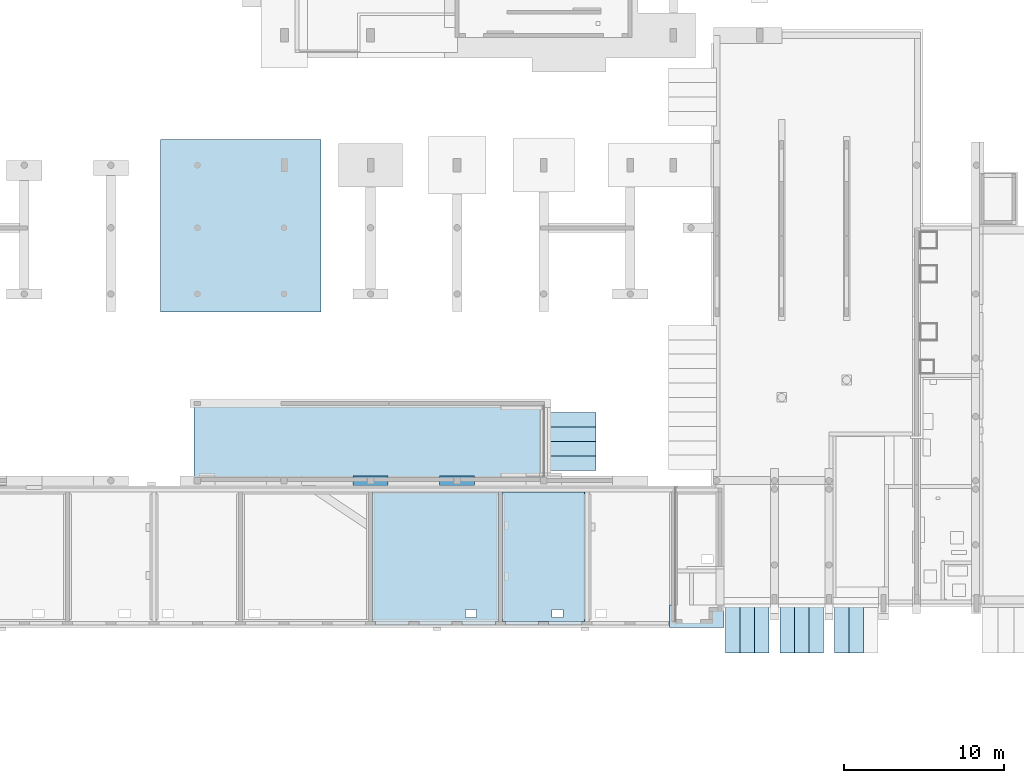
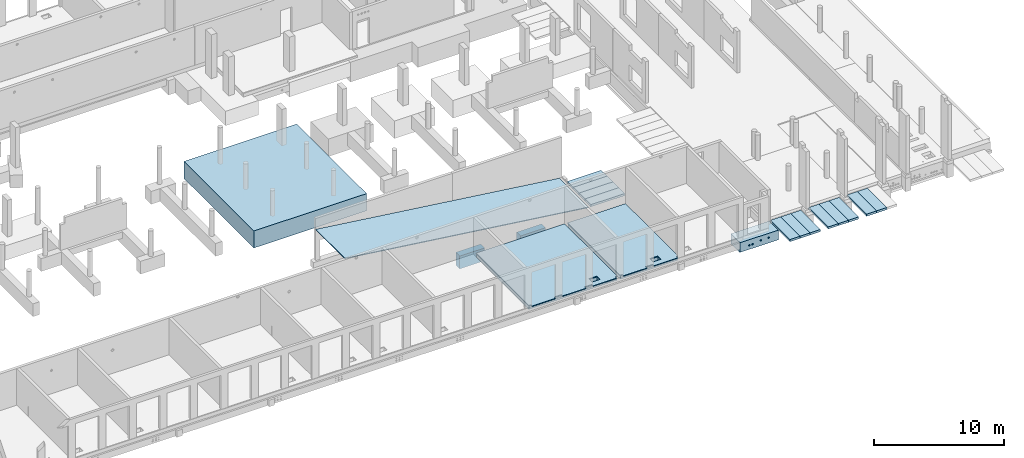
# One storey, part 28 of 60: 21 slabs, 34 openings.
"""IFC2X3 building model written with IfcOpenShell, lengths in millimetres."""

from ifc_helpers import new_model, entity, si_unit, converted_unit, derived_unit, direction, frame, frame_2d, origin, origin_2d_with_axis, place, context, subcontext, project, spatial, polyline, rectangle, circle, outline, extrude, boolean, clip, halfspace, material, layer, layer_set, layer_usage, element, save


model = new_model("IFC2X3")

# Units and contexts
model_context = context("Model", 3, precision=0.01, world=origin(), true_north=direction((6.12303176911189e-17, 1.0)))
body_context = subcontext(model_context, "Body", "Model", "MODEL_VIEW")
ifc_project = project(units=[si_unit("LENGTHUNIT", "METRE", prefix="MILLI"), si_unit("AREAUNIT", "SQUARE_METRE"), si_unit("VOLUMEUNIT", "CUBIC_METRE"), converted_unit("PLANEANGLEUNIT", "DEGREE", entity("IfcRatioMeasure", 0.0174532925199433), si_unit("PLANEANGLEUNIT", "RADIAN"), dimensions=[0, 0, 0, 0, 0, 0, 0]), si_unit("MASSUNIT", "GRAM", prefix="KILO"), derived_unit("MASSDENSITYUNIT", [(si_unit("MASSUNIT", "GRAM", prefix="KILO"), 1), (si_unit("LENGTHUNIT", "METRE"), -3)]), si_unit("TIMEUNIT", "SECOND"), si_unit("FREQUENCYUNIT", "HERTZ"), si_unit("THERMODYNAMICTEMPERATUREUNIT", "DEGREE_CELSIUS"), derived_unit("THERMALTRANSMITTANCEUNIT", [(si_unit("MASSUNIT", "GRAM", prefix="KILO"), 1), (si_unit("THERMODYNAMICTEMPERATUREUNIT", "KELVIN"), -1), (si_unit("TIMEUNIT", "SECOND"), -3)]), derived_unit("VOLUMETRICFLOWRATEUNIT", [(si_unit("LENGTHUNIT", "METRE"), 3), (si_unit("TIMEUNIT", "SECOND"), -1)]), si_unit("ELECTRICCURRENTUNIT", "AMPERE"), si_unit("ELECTRICVOLTAGEUNIT", "VOLT"), si_unit("POWERUNIT", "WATT"), si_unit("FORCEUNIT", "NEWTON", prefix="KILO"), si_unit("ILLUMINANCEUNIT", "LUX"), si_unit("LUMINOUSFLUXUNIT", "LUMEN"), si_unit("LUMINOUSINTENSITYUNIT", "CANDELA"), derived_unit("USERDEFINED", [(si_unit("MASSUNIT", "GRAM", prefix="KILO"), -1), (si_unit("LENGTHUNIT", "METRE"), -2), (si_unit("TIMEUNIT", "SECOND"), 3), (si_unit("LUMINOUSFLUXUNIT", "LUMEN"), 1)]), derived_unit("LINEARVELOCITYUNIT", [(si_unit("LENGTHUNIT", "METRE"), 1), (si_unit("TIMEUNIT", "SECOND"), -1)]), si_unit("PRESSUREUNIT", "PASCAL"), derived_unit("USERDEFINED", [(si_unit("LENGTHUNIT", "METRE"), -2), (si_unit("MASSUNIT", "GRAM", prefix="KILO"), 1), (si_unit("TIMEUNIT", "SECOND"), -2)])], contexts=[model_context])

# Site, building, storey
site_placement = place(None, origin())
site = spatial("IfcSite", under=ifc_project, at=site_placement, Name="Default", CompositionType="ELEMENT")
building_placement = place(site_placement, origin())
building = spatial("IfcBuilding", under=site, at=building_placement, Name="niet gebruiken", CompositionType="ELEMENT")
storey_placement = place(building_placement, origin())
storey = spatial("IfcBuildingStorey", under=building, at=storey_placement, Name="00 begane grond", CompositionType="ELEMENT", Elevation=0.0)

# Slab, openings
ifc_material_1 = material(Name="NLRS_f2_beton ihwg")
ifc_layer_1 = layer(ifc_material_1, 70.0)
ifc_layer_set_1 = layer_set([ifc_layer_1], Name="Floor:NLRS_23.21_FL_druklaag d=70_gen")
ifc_layer_usage_1 = layer_usage(ifc_layer_set_1, "AXIS3", "POSITIVE", 0.0)
slab_1_placement = place(storey_placement, frame((2800.0, 200.0, -160.0)))
slab_1 = element("IfcSlab", 1, at=slab_1_placement, inside=storey, material=ifc_layer_usage_1, Name="Floor:NLRS_23.21_FL_druklaag d=70_gen:14", ObjectType="Floor:NLRS_23.21_FL_druklaag d=70_gen", PredefinedType="FLOOR", context=body_context, shape_type="SweptSolid", body=[
    extrude(outline(polyline([(-28572.4999999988, -3948.0), (-28387.4999999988, -3948.0), (-28387.4999999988, 4148.0), (-36237.4999999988, 4148.0), (-36237.4999999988, -3948.0), (-36052.4999999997, -3948.0), (-36052.4999999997, -4148.0), (-33972.4999999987, -4148.0), (-33972.4999999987, -3948.0), (-33352.4999999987, -3948.0), (-33352.4999999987, -4148.0), (-31272.4999999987, -4148.0), (-31272.4999999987, -3948.0), (-30652.4999999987, -3948.0), (-30652.4999999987, -4148.0), (-28572.4999999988, -4148.0), (-28572.4999999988, -3948.0)])), frame((49937.5, 4148.0, 70.0), z_axis=(0.0, 0.0, -1.0), x_axis=(-1.0, 0.0, 0.0)), (0.0, 0.0, 1.0), 70.0),
])
placement_1 = place(storey_placement, frame((2800.0, 200.0, -160.0)))
placement_2 = place(placement_1, origin())
element("IfcOpeningElement", 2, at=placement_2, cuts=slab_1, ObjectType="Opening", context=body_context, shape_type="SweptSolid", body=[
    extrude(rectangle(XDim=699.999999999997, YDim=500.000000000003, at=origin_2d_with_axis()), frame((89870.0, 725.0, -380.0), z_axis=(0.0, 0.0, 1.0), x_axis=(-1.0, 0.0, 0.0)), (0.0, 0.0, 1.0), 450.0),
])
placement_3 = place(placement_1, origin())
element("IfcOpeningElement", 3, at=placement_3, cuts=slab_1, ObjectType="Opening", context=body_context, shape_type="SweptSolid", body=[
    extrude(rectangle(XDim=699.999999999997, YDim=500.000000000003, at=origin_2d_with_axis()), frame((92570.0, 725.0, -380.0), z_axis=(0.0, 0.0, 1.0), x_axis=(-1.0, 0.0, 0.0)), (0.0, 0.0, 1.0), 450.0),
])
placement_4 = place(placement_1, origin())
element("IfcOpeningElement", 4, at=placement_4, cuts=slab_1, ObjectType="Opening", context=body_context, shape_type="SweptSolid", body=[
    extrude(rectangle(XDim=699.999999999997, YDim=500.000000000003, at=origin_2d_with_axis()), frame((84470.0, 725.0, -380.0), z_axis=(0.0, 0.0, 1.0), x_axis=(-1.0, 0.0, 0.0)), (0.0, 0.0, 1.0), 450.0),
])
placement_5 = place(placement_1, origin())
element("IfcOpeningElement", 5, at=placement_5, cuts=slab_1, ObjectType="Opening", context=body_context, shape_type="SweptSolid", body=[
    extrude(rectangle(XDim=700.000000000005, YDim=500.000000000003, at=origin_2d_with_axis()), frame((70970.0, 725.0, -380.0), z_axis=(0.0, 0.0, 1.0), x_axis=(-1.0, 0.0, 0.0)), (0.0, 0.0, 1.0), 450.0),
])
placement_6 = place(placement_1, origin())
element("IfcOpeningElement", 6, at=placement_6, cuts=slab_1, ObjectType="Opening", context=body_context, shape_type="SweptSolid", body=[
    extrude(rectangle(XDim=700.000000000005, YDim=500.000000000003, at=origin_2d_with_axis()), frame((65570.0, 725.0, -380.0), z_axis=(0.0, 0.0, 1.0), x_axis=(-1.0, 0.0, 0.0)), (0.0, 0.0, 1.0), 450.0),
])
placement_7 = place(placement_1, origin())
element("IfcOpeningElement", 7, at=placement_7, cuts=slab_1, ObjectType="Opening", context=body_context, shape_type="SweptSolid", body=[
    extrude(rectangle(XDim=700.000000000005, YDim=500.000000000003, at=origin_2d_with_axis()), frame((62870.0, 725.0, -380.0), z_axis=(0.0, 0.0, 1.0), x_axis=(-1.0, 0.0, 0.0)), (0.0, 0.0, 1.0), 450.0),
])
placement_8 = place(placement_1, origin())
element("IfcOpeningElement", 8, at=placement_8, cuts=slab_1, ObjectType="Opening", context=body_context, shape_type="SweptSolid", body=[
    extrude(rectangle(XDim=700.000000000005, YDim=500.000000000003, at=origin_2d_with_axis()), frame((57470.0, 725.0, -380.0), z_axis=(0.0, 0.0, 1.0), x_axis=(-1.0, 0.0, 0.0)), (0.0, 0.0, 1.0), 450.0),
])
placement_9 = place(placement_1, origin())
element("IfcOpeningElement", 9, at=placement_9, cuts=slab_1, ObjectType="Opening", context=body_context, shape_type="SweptSolid", body=[
    extrude(rectangle(XDim=700.000000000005, YDim=500.000000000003, at=origin_2d_with_axis()), frame((43970.0, 725.0, -380.0), z_axis=(0.0, 0.0, 1.0), x_axis=(-1.0, 0.0, 0.0)), (0.0, 0.0, 1.0), 450.0),
])
placement_10 = place(placement_1, origin())
element("IfcOpeningElement", 10, at=placement_10, cuts=slab_1, ObjectType="Opening", context=body_context, shape_type="SweptSolid", body=[
    extrude(rectangle(XDim=700.000000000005, YDim=500.000000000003, at=origin_2d_with_axis()), frame((38570.0, 725.0, -380.0), z_axis=(0.0, 0.0, 1.0), x_axis=(-1.0, 0.0, 0.0)), (0.0, 0.0, 1.0), 450.0),
])
placement_11 = place(placement_1, origin())
element("IfcOpeningElement", 11, at=placement_11, cuts=slab_1, ObjectType="Opening", context=body_context, shape_type="SweptSolid", body=[
    extrude(rectangle(XDim=700.000000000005, YDim=500.000000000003, at=origin_2d_with_axis()), frame((35870.0, 725.0, -380.0), z_axis=(0.0, 0.0, 1.0), x_axis=(-1.0, 0.0, 0.0)), (0.0, 0.0, 1.0), 450.0),
])
placement_12 = place(placement_1, origin())
element("IfcOpeningElement", 12, at=placement_12, cuts=slab_1, ObjectType="Opening", context=body_context, shape_type="SweptSolid", body=[
    extrude(rectangle(XDim=700.000000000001, YDim=500.000000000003, at=origin_2d_with_axis()), frame((30470.0, 725.0, -380.0), z_axis=(0.0, 0.0, 1.0), x_axis=(-1.0, 0.0, 0.0)), (0.0, 0.0, 1.0), 450.0),
])
placement_13 = place(placement_1, origin())
element("IfcOpeningElement", 13, at=placement_13, cuts=slab_1, ObjectType="Opening", context=body_context, shape_type="SweptSolid", body=[
    extrude(rectangle(XDim=700.000000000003, YDim=500.000000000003, at=origin_2d_with_axis()), frame((16970.0, 725.0, -380.0), z_axis=(0.0, 0.0, 1.0), x_axis=(-1.0, 0.0, 0.0)), (0.0, 0.0, 1.0), 450.0),
])
placement_14 = place(placement_1, origin())
element("IfcOpeningElement", 14, at=placement_14, cuts=slab_1, ObjectType="Opening", context=body_context, shape_type="SweptSolid", body=[
    extrude(rectangle(XDim=700.000000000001, YDim=500.000000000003, at=origin_2d_with_axis()), frame((11570.0, 725.0, -380.0), z_axis=(0.0, 0.0, 1.0), x_axis=(-1.0, 0.0, 0.0)), (0.0, 0.0, 1.0), 450.0),
])
placement_15 = place(placement_1, origin())
element("IfcOpeningElement", 15, at=placement_15, cuts=slab_1, ObjectType="Opening", context=body_context, shape_type="SweptSolid", body=[
    extrude(rectangle(XDim=700.000000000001, YDim=500.000000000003, at=origin_2d_with_axis()), frame((8870.0, 725.0, -380.0), z_axis=(0.0, 0.0, 1.0), x_axis=(-1.0, 0.0, 0.0)), (0.0, 0.0, 1.0), 450.0),
])
placement_16 = place(placement_1, origin())
element("IfcOpeningElement", 16, at=placement_16, cuts=slab_1, ObjectType="Opening", context=body_context, shape_type="SweptSolid", body=[
    extrude(rectangle(XDim=700.000000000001, YDim=500.000000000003, at=origin_2d_with_axis()), frame((3470.0, 725.0, -380.0), z_axis=(0.0, 0.0, 1.0), x_axis=(-1.0, 0.0, 0.0)), (0.0, 0.0, 1.0), 450.0),
])
placement_17 = place(placement_1, origin())
element("IfcOpeningElement", 17, at=placement_17, cuts=slab_1, ObjectType="Opening", context=body_context, shape_type="SweptSolid", body=[
    extrude(rectangle(XDim=699.999999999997, YDim=500.000000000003, at=origin_2d_with_axis()), frame((99205.001708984, 4120.00003051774, -380.0), z_axis=(0.0, 0.0, 1.0), x_axis=(-1.0, 0.0, 0.0)), (0.0, 0.0, 1.0), 450.0),
])

slab_2_placement = place(storey_placement, frame((2800.0, 200.0, -160.0)))
slab_2 = element("IfcSlab", 18, at=slab_2_placement, inside=storey, material=ifc_layer_usage_1, Name="Floor:NLRS_23.21_FL_druklaag d=70_gen:15", ObjectType="Floor:NLRS_23.21_FL_druklaag d=70_gen", PredefinedType="FLOOR", context=body_context, shape_type="SweptSolid", body=[
    extrude(outline(polyline([(-36672.4999999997, -3948.0), (-36487.4999999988, -3948.0), (-36487.4999999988, 4148.0), (-41637.4999999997, 4148.0), (-41637.4999999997, -3948.0), (-41452.4999999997, -3948.0), (-41452.4999999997, -4148.0), (-39372.4999999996, -4148.0), (-39372.4999999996, -3948.0), (-38752.4999999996, -3948.0), (-38752.4999999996, -4148.0), (-36672.4999999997, -4148.0), (-36672.4999999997, -3948.0)])), frame((49937.5, 4148.0, 70.0), z_axis=(0.0, 0.0, -1.0), x_axis=(-1.0, 0.0, 0.0)), (0.0, 0.0, 1.0), 70.0),
])
element("IfcOpeningElement", 19, at=placement_2, cuts=slab_2, ObjectType="Opening", context=body_context, shape_type="SweptSolid", body=[
    extrude(rectangle(XDim=699.999999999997, YDim=500.000000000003, at=origin_2d_with_axis()), frame((89870.0, 725.0, -380.0), z_axis=(0.0, 0.0, 1.0), x_axis=(-1.0, 0.0, 0.0)), (0.0, 0.0, 1.0), 450.0),
])
element("IfcOpeningElement", 20, at=placement_3, cuts=slab_2, ObjectType="Opening", context=body_context, shape_type="SweptSolid", body=[
    extrude(rectangle(XDim=699.999999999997, YDim=500.000000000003, at=origin_2d_with_axis()), frame((92570.0, 725.0, -380.0), z_axis=(0.0, 0.0, 1.0), x_axis=(-1.0, 0.0, 0.0)), (0.0, 0.0, 1.0), 450.0),
])
element("IfcOpeningElement", 21, at=placement_4, cuts=slab_2, ObjectType="Opening", context=body_context, shape_type="SweptSolid", body=[
    extrude(rectangle(XDim=699.999999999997, YDim=500.000000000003, at=origin_2d_with_axis()), frame((84470.0, 725.0, -380.0), z_axis=(0.0, 0.0, 1.0), x_axis=(-1.0, 0.0, 0.0)), (0.0, 0.0, 1.0), 450.0),
])
element("IfcOpeningElement", 22, at=placement_5, cuts=slab_2, ObjectType="Opening", context=body_context, shape_type="SweptSolid", body=[
    extrude(rectangle(XDim=700.000000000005, YDim=500.000000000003, at=origin_2d_with_axis()), frame((70970.0, 725.0, -380.0), z_axis=(0.0, 0.0, 1.0), x_axis=(-1.0, 0.0, 0.0)), (0.0, 0.0, 1.0), 450.0),
])
element("IfcOpeningElement", 23, at=placement_6, cuts=slab_2, ObjectType="Opening", context=body_context, shape_type="SweptSolid", body=[
    extrude(rectangle(XDim=700.000000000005, YDim=500.000000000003, at=origin_2d_with_axis()), frame((65570.0, 725.0, -380.0), z_axis=(0.0, 0.0, 1.0), x_axis=(-1.0, 0.0, 0.0)), (0.0, 0.0, 1.0), 450.0),
])
element("IfcOpeningElement", 24, at=placement_7, cuts=slab_2, ObjectType="Opening", context=body_context, shape_type="SweptSolid", body=[
    extrude(rectangle(XDim=700.000000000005, YDim=500.000000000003, at=origin_2d_with_axis()), frame((62870.0, 725.0, -380.0), z_axis=(0.0, 0.0, 1.0), x_axis=(-1.0, 0.0, 0.0)), (0.0, 0.0, 1.0), 450.0),
])
element("IfcOpeningElement", 25, at=placement_8, cuts=slab_2, ObjectType="Opening", context=body_context, shape_type="SweptSolid", body=[
    extrude(rectangle(XDim=700.000000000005, YDim=500.000000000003, at=origin_2d_with_axis()), frame((57470.0, 725.0, -380.0), z_axis=(0.0, 0.0, 1.0), x_axis=(-1.0, 0.0, 0.0)), (0.0, 0.0, 1.0), 450.0),
])
element("IfcOpeningElement", 26, at=placement_9, cuts=slab_2, ObjectType="Opening", context=body_context, shape_type="SweptSolid", body=[
    extrude(rectangle(XDim=700.000000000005, YDim=500.000000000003, at=origin_2d_with_axis()), frame((43970.0, 725.0, -380.0), z_axis=(0.0, 0.0, 1.0), x_axis=(-1.0, 0.0, 0.0)), (0.0, 0.0, 1.0), 450.0),
])
element("IfcOpeningElement", 27, at=placement_10, cuts=slab_2, ObjectType="Opening", context=body_context, shape_type="SweptSolid", body=[
    extrude(rectangle(XDim=700.000000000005, YDim=500.000000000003, at=origin_2d_with_axis()), frame((38570.0, 725.0, -380.0), z_axis=(0.0, 0.0, 1.0), x_axis=(-1.0, 0.0, 0.0)), (0.0, 0.0, 1.0), 450.0),
])
element("IfcOpeningElement", 28, at=placement_11, cuts=slab_2, ObjectType="Opening", context=body_context, shape_type="SweptSolid", body=[
    extrude(rectangle(XDim=700.000000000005, YDim=500.000000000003, at=origin_2d_with_axis()), frame((35870.0, 725.0, -380.0), z_axis=(0.0, 0.0, 1.0), x_axis=(-1.0, 0.0, 0.0)), (0.0, 0.0, 1.0), 450.0),
])
element("IfcOpeningElement", 29, at=placement_12, cuts=slab_2, ObjectType="Opening", context=body_context, shape_type="SweptSolid", body=[
    extrude(rectangle(XDim=700.000000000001, YDim=500.000000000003, at=origin_2d_with_axis()), frame((30470.0, 725.0, -380.0), z_axis=(0.0, 0.0, 1.0), x_axis=(-1.0, 0.0, 0.0)), (0.0, 0.0, 1.0), 450.0),
])
element("IfcOpeningElement", 30, at=placement_13, cuts=slab_2, ObjectType="Opening", context=body_context, shape_type="SweptSolid", body=[
    extrude(rectangle(XDim=700.000000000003, YDim=500.000000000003, at=origin_2d_with_axis()), frame((16970.0, 725.0, -380.0), z_axis=(0.0, 0.0, 1.0), x_axis=(-1.0, 0.0, 0.0)), (0.0, 0.0, 1.0), 450.0),
])
element("IfcOpeningElement", 31, at=placement_14, cuts=slab_2, ObjectType="Opening", context=body_context, shape_type="SweptSolid", body=[
    extrude(rectangle(XDim=700.000000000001, YDim=500.000000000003, at=origin_2d_with_axis()), frame((11570.0, 725.0, -380.0), z_axis=(0.0, 0.0, 1.0), x_axis=(-1.0, 0.0, 0.0)), (0.0, 0.0, 1.0), 450.0),
])
element("IfcOpeningElement", 32, at=placement_15, cuts=slab_2, ObjectType="Opening", context=body_context, shape_type="SweptSolid", body=[
    extrude(rectangle(XDim=700.000000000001, YDim=500.000000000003, at=origin_2d_with_axis()), frame((8870.0, 725.0, -380.0), z_axis=(0.0, 0.0, 1.0), x_axis=(-1.0, 0.0, 0.0)), (0.0, 0.0, 1.0), 450.0),
])
element("IfcOpeningElement", 33, at=placement_16, cuts=slab_2, ObjectType="Opening", context=body_context, shape_type="SweptSolid", body=[
    extrude(rectangle(XDim=700.000000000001, YDim=500.000000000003, at=origin_2d_with_axis()), frame((3470.0, 725.0, -380.0), z_axis=(0.0, 0.0, 1.0), x_axis=(-1.0, 0.0, 0.0)), (0.0, 0.0, 1.0), 450.0),
])
element("IfcOpeningElement", 34, at=placement_17, cuts=slab_2, ObjectType="Opening", context=body_context, shape_type="SweptSolid", body=[
    extrude(rectangle(XDim=699.999999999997, YDim=500.000000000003, at=origin_2d_with_axis()), frame((99205.001708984, 4120.00003051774, -380.0), z_axis=(0.0, 0.0, 1.0), x_axis=(-1.0, 0.0, 0.0)), (0.0, 0.0, 1.0), 450.0),
])

# Slab, opening
ifc_material_2 = material(Name="NLRS_f2_beton prefab")
ifc_layer_2 = layer(ifc_material_2, 200.0)
ifc_material_3 = material(Name="NLRS_n7_isolatie EPS")
ifc_layer_3 = layer(ifc_material_3, 132.0)
ifc_layer_set_2 = layer_set([ifc_layer_2, ifc_layer_3], Name="Floor:NLRS_23.21_FL_geisoleerde kanaalplaat d=200 rc 3.5 iso132_gen")
ifc_layer_usage_2 = layer_usage(ifc_layer_set_2, "AXIS3", "POSITIVE", 0.0)
slab_3_placement = place(storey_placement, frame((89245.0, 420.0, -492.0)))
slab_3 = element("IfcSlab", 35, at=slab_3_placement, inside=storey, material=ifc_layer_usage_2, Name="Floor:NLRS_23.21_FL_geisoleerde kanaalplaat d=200 rc 3.5 iso132_gen", ObjectType="Floor:NLRS_23.21_FL_geisoleerde kanaalplaat d=200 rc 3.5 iso132_gen", PredefinedType="FLOOR", context=body_context, shape_type="SweptSolid", body=[
    extrude(rectangle(XDim=8055.99999999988, YDim=5109.99999999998, at=frame_2d((0.0, 0.0), x_axis=(0.0, -1.0))), frame((2555.0, 4028.0, 332.0), z_axis=(0.0, 0.0, -1.0), x_axis=(-1.0, 0.0, 0.0)), (0.0, 0.0, 1.0), 332.0),
])
opening_33_placement = place(slab_3_placement, origin())
element("IfcOpeningElement", 36, at=opening_33_placement, cuts=slab_3, ObjectType="Opening", context=body_context, shape_type="SweptSolid", body=[
    extrude(rectangle(XDim=699.999999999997, YDim=500.000000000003, at=origin_2d_with_axis()), frame((3425.0, 505.0, -48.0), z_axis=(0.0, 0.0, 1.0), x_axis=(-1.0, 0.0, 0.0)), (0.0, 0.0, 1.0), 450.0),
])

ifc_layer_usage_3 = layer_usage(ifc_layer_set_2, "AXIS3", "POSITIVE", 0.0)
slab_4_placement = place(storey_placement, frame((81145.0, 420.0, -492.0)))
slab_4 = element("IfcSlab", 37, at=slab_4_placement, inside=storey, material=ifc_layer_usage_3, Name="Floor:NLRS_23.21_FL_geisoleerde kanaalplaat d=200 rc 3.5 iso132_gen", ObjectType="Floor:NLRS_23.21_FL_geisoleerde kanaalplaat d=200 rc 3.5 iso132_gen", PredefinedType="FLOOR", context=body_context, shape_type="SweptSolid", body=[
    extrude(rectangle(XDim=8055.9999999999, YDim=7809.99999999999, at=frame_2d((0.0, 0.0), x_axis=(0.0, -1.0))), frame((3905.0, 4028.0, 332.0), z_axis=(0.0, 0.0, -1.0), x_axis=(-1.0, 0.0, 0.0)), (0.0, 0.0, 1.0), 332.0),
])
opening_34_placement = place(slab_4_placement, origin())
element("IfcOpeningElement", 38, at=opening_34_placement, cuts=slab_4, ObjectType="Opening", context=body_context, shape_type="SweptSolid", body=[
    extrude(rectangle(XDim=699.999999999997, YDim=500.000000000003, at=origin_2d_with_axis()), frame((6125.0, 505.0, -48.0), z_axis=(0.0, 0.0, 1.0), x_axis=(-1.0, 0.0, 0.0)), (0.0, 0.0, 1.0), 450.0),
])

# Slabs
ifc_layer_4 = layer(ifc_material_1, 70.0)
ifc_layer_set_3 = layer_set([ifc_layer_4], Name="Floor:NLRS_23.21_FL_druklaag - opgeruwd d=70_gen")
ifc_layer_usage_4 = layer_usage(ifc_layer_set_3, "AXIS3", "POSITIVE", 0.0)
slab_5_placement = place(storey_placement, origin())
element("IfcSlab", 39, at=slab_5_placement, inside=storey, material=ifc_layer_usage_4, Name="Floor:NLRS_23.21_FL_druklaag - opgeruwd d=70_gen", ObjectType="Floor:NLRS_23.21_FL_druklaag - opgeruwd d=70_gen", PredefinedType="FLOOR", context=body_context, shape_type="Clipping", body=[
    clip(clip(extrude(rectangle(XDim=21776.8891258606, YDim=4480.0, at=frame_2d((6.82121026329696e-13, 0.0), x_axis=(0.0, 1.0))), frame((80800.0, 11636.0, 1385.0), z_axis=(-0.127199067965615, 0.0, -0.991877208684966), x_axis=(0.0, 1.0, 0.0)), (0.0, 0.127199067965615, 0.991877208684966), 71.151198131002), halfspace(frame((91600.0, 11726.2449729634, -70.5732517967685), z_axis=(-0.127199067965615, 0.0, -0.991877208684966), x_axis=(-0.991877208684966, 0.0, 0.127199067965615)), False)), halfspace(frame((91600.0, 11726.2449729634, 0.0), z_axis=(0.127199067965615, 0.0, 0.991877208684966), x_axis=(0.991877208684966, 0.0, -0.127199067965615)), False)),
])
ifc_layer_5 = layer(ifc_material_1, 1600.0)
ifc_layer_set_4 = layer_set([ifc_layer_5], Name="Floor:NLRS_13.22_FL_beton ihwg d=1600_gen")
ifc_layer_usage_5 = layer_usage(ifc_layer_set_4, "AXIS3", "POSITIVE", 0.0)
slab_6_placement = place(storey_placement, origin())
element("IfcSlab", 40, at=slab_6_placement, inside=storey, material=ifc_layer_usage_5, Name="Floor:NLRS_13.22_FL_beton ihwg d=1600_gen", ObjectType="Floor:NLRS_13.22_FL_beton ihwg d=1600_gen", PredefinedType="BASESLAB", context=body_context, shape_type="SweptSolid", body=[
    extrude(rectangle(XDim=10750.0, YDim=10000.0, at=origin_2d_with_axis()), frame((72900.0, 25106.0, -200.0), z_axis=(0.0, 0.0, -1.0), x_axis=(0.0, 1.0, 0.0)), (0.0, 0.0, 1.0), 1600.0),
])
slab_7_placement = place(storey_placement, origin())
element("IfcSlab", 41, at=slab_7_placement, inside=storey, material=ifc_material_1, Name="NLRS_16.13_SFO_LB_fundatiepoer_gen:600x2200x1200", ObjectType="NLRS_16.13_SFO_LB_fundatiepoer_gen:600x2200x1200", PredefinedType="BASESLAB", context=body_context, shape_type="SweptSolid", body=[
    extrude(rectangle(XDim=2200.0, YDim=600.0, at=frame_2d((8.64019966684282e-12, 0.0), x_axis=(1.0, 0.0))), frame((81000.0, 9196.0, -1400.0), z_axis=(0.0, 0.0, 1.0), x_axis=(-1.0, 0.0, 0.0)), (0.0, 0.0, 1.0), 1200.0),
])
slab_8_placement = place(storey_placement, origin())
element("IfcSlab", 42, at=slab_8_placement, inside=storey, material=ifc_material_1, Name="NLRS_16.13_SFO_LB_fundatiepoer_gen:600x2200x1200", ObjectType="NLRS_16.13_SFO_LB_fundatiepoer_gen:600x2200x1200", PredefinedType="BASESLAB", context=body_context, shape_type="SweptSolid", body=[
    extrude(rectangle(XDim=2200.0, YDim=600.0, at=frame_2d((8.64019966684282e-12, 0.0), x_axis=(1.0, 0.0))), frame((86400.0, 9196.0, -1400.0), z_axis=(0.0, 0.0, 1.0), x_axis=(-1.0, 0.0, 0.0)), (0.0, 0.0, 1.0), 1200.0),
])
ifc_layer_6 = layer(ifc_material_2, 200.0)
ifc_layer_set_5 = layer_set([ifc_layer_6], Name="Floor:NLRS_13.22_FL_beton prefab d=200_gen")
ifc_layer_usage_6 = layer_usage(ifc_layer_set_5, "AXIS3", "POSITIVE", 0.0)
slab_9_placement = place(storey_placement, origin())
element("IfcSlab", 43, at=slab_9_placement, inside=storey, material=ifc_layer_usage_6, Name="Floor:NLRS_13.22_FL_beton prefab d=200_gen", ObjectType="Floor:NLRS_13.22_FL_beton prefab d=200_gen", PredefinedType="FLOOR", context=body_context, shape_type="SweptSolid", body=[
    extrude(rectangle(XDim=3000.0, YDim=900.000000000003, at=frame_2d((-2.27373675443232e-13, 0.0), x_axis=(1.0, 0.0))), frame((111300.000370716, -50.0, -450.0), z_axis=(0.0, 0.0, -1.0), x_axis=(0.0, 1.0, 0.0)), (0.0, 0.0, 1.0), 200.0),
])
ifc_layer_usage_7 = layer_usage(ifc_layer_set_5, "AXIS3", "POSITIVE", 0.0)
slab_10_placement = place(storey_placement, origin())
element("IfcSlab", 44, at=slab_10_placement, inside=storey, material=ifc_layer_usage_7, Name="Floor:NLRS_13.22_FL_beton prefab d=200_gen", ObjectType="Floor:NLRS_13.22_FL_beton prefab d=200_gen", PredefinedType="FLOOR", context=body_context, shape_type="SweptSolid", body=[
    extrude(rectangle(XDim=3000.0, YDim=900.000000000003, at=frame_2d((-2.27373675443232e-13, 0.0), x_axis=(1.0, 0.0))), frame((110400.000370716, -50.0, -450.0), z_axis=(0.0, 0.0, -1.0), x_axis=(0.0, 1.0, 0.0)), (0.0, 0.0, 1.0), 200.0),
])
ifc_layer_usage_8 = layer_usage(ifc_layer_set_5, "AXIS3", "POSITIVE", 0.0)
slab_11_placement = place(storey_placement, origin())
element("IfcSlab", 45, at=slab_11_placement, inside=storey, material=ifc_layer_usage_8, Name="Floor:NLRS_13.22_FL_beton prefab d=200_gen", ObjectType="Floor:NLRS_13.22_FL_beton prefab d=200_gen", PredefinedType="FLOOR", context=body_context, shape_type="SweptSolid", body=[
    extrude(rectangle(XDim=3000.0, YDim=900.000000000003, at=frame_2d((-2.27373675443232e-13, 0.0), x_axis=(1.0, 0.0))), frame((108800.000370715, -50.0, -450.0), z_axis=(0.0, 0.0, -1.0), x_axis=(0.0, 1.0, 0.0)), (0.0, 0.0, 1.0), 200.0),
])
ifc_layer_usage_9 = layer_usage(ifc_layer_set_5, "AXIS3", "POSITIVE", 0.0)
slab_12_placement = place(storey_placement, origin())
element("IfcSlab", 46, at=slab_12_placement, inside=storey, material=ifc_layer_usage_9, Name="Floor:NLRS_13.22_FL_beton prefab d=200_gen", ObjectType="Floor:NLRS_13.22_FL_beton prefab d=200_gen", PredefinedType="FLOOR", context=body_context, shape_type="SweptSolid", body=[
    extrude(rectangle(XDim=3000.0, YDim=900.000000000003, at=origin_2d_with_axis()), frame((107900.000370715, -50.0, -450.0), z_axis=(0.0, 0.0, -1.0), x_axis=(0.0, 1.0, 0.0)), (0.0, 0.0, 1.0), 200.0),
])
ifc_layer_usage_10 = layer_usage(ifc_layer_set_5, "AXIS3", "POSITIVE", 0.0)
slab_13_placement = place(storey_placement, origin())
element("IfcSlab", 47, at=slab_13_placement, inside=storey, material=ifc_layer_usage_10, Name="Floor:NLRS_13.22_FL_beton prefab d=200_gen", ObjectType="Floor:NLRS_13.22_FL_beton prefab d=200_gen", PredefinedType="FLOOR", context=body_context, shape_type="SweptSolid", body=[
    extrude(rectangle(XDim=3000.0, YDim=900.000000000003, at=origin_2d_with_axis()), frame((107000.000370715, -50.0, -450.0), z_axis=(0.0, 0.0, -1.0), x_axis=(0.0, 1.0, 0.0)), (0.0, 0.0, 1.0), 200.0),
])
ifc_layer_usage_11 = layer_usage(ifc_layer_set_5, "AXIS3", "POSITIVE", 0.0)
slab_14_placement = place(storey_placement, origin())
element("IfcSlab", 48, at=slab_14_placement, inside=storey, material=ifc_layer_usage_11, Name="Floor:NLRS_13.22_FL_beton prefab d=200_gen", ObjectType="Floor:NLRS_13.22_FL_beton prefab d=200_gen", PredefinedType="FLOOR", context=body_context, shape_type="SweptSolid", body=[
    extrude(rectangle(XDim=3000.0, YDim=900.000000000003, at=origin_2d_with_axis()), frame((105400.000370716, -50.0, -450.0), z_axis=(0.0, 0.0, -1.0), x_axis=(0.0, 1.0, 0.0)), (0.0, 0.0, 1.0), 200.0),
])
ifc_layer_usage_12 = layer_usage(ifc_layer_set_5, "AXIS3", "POSITIVE", 0.0)
slab_15_placement = place(storey_placement, origin())
element("IfcSlab", 49, at=slab_15_placement, inside=storey, material=ifc_layer_usage_12, Name="Floor:NLRS_13.22_FL_beton prefab d=200_gen", ObjectType="Floor:NLRS_13.22_FL_beton prefab d=200_gen", PredefinedType="FLOOR", context=body_context, shape_type="SweptSolid", body=[
    extrude(rectangle(XDim=3000.0, YDim=900.000000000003, at=frame_2d((-2.27373675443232e-13, 0.0), x_axis=(1.0, 0.0))), frame((104500.000370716, -50.0, -450.0), z_axis=(0.0, 0.0, -1.0), x_axis=(0.0, 1.0, 0.0)), (0.0, 0.0, 1.0), 200.0),
])
ifc_layer_usage_13 = layer_usage(ifc_layer_set_5, "AXIS3", "POSITIVE", 0.0)
slab_16_placement = place(storey_placement, origin())
element("IfcSlab", 50, at=slab_16_placement, inside=storey, material=ifc_layer_usage_13, Name="Floor:NLRS_13.22_FL_beton prefab d=200_gen", ObjectType="Floor:NLRS_13.22_FL_beton prefab d=200_gen", PredefinedType="FLOOR", context=body_context, shape_type="SweptSolid", body=[
    extrude(rectangle(XDim=3000.0, YDim=900.000000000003, at=frame_2d((-2.27373675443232e-13, 0.0), x_axis=(1.0, 0.0))), frame((103600.000370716, -50.0, -450.0), z_axis=(0.0, 0.0, -1.0), x_axis=(0.0, 1.0, 0.0)), (0.0, 0.0, 1.0), 200.0),
])
ifc_layer_usage_14 = layer_usage(ifc_layer_set_5, "AXIS3", "POSITIVE", 0.0)
slab_17_placement = place(storey_placement, origin())
element("IfcSlab", 51, at=slab_17_placement, inside=storey, material=ifc_layer_usage_14, Name="Floor:NLRS_13.22_FL_beton prefab d=200_gen", ObjectType="Floor:NLRS_13.22_FL_beton prefab d=200_gen", PredefinedType="FLOOR", context=body_context, shape_type="SweptSolid", body=[
    extrude(rectangle(XDim=900.000000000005, YDim=3000.00000000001, at=frame_2d((-2.1600499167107e-12, 0.0), x_axis=(1.0, 0.0))), frame((93570.0, 11185.8078695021, -200.0), z_axis=(0.0, 0.0, -1.0), x_axis=(0.0, 1.0, 0.0)), (0.0, 0.0, 1.0), 200.0),
])
ifc_layer_usage_15 = layer_usage(ifc_layer_set_5, "AXIS3", "POSITIVE", 0.0)
slab_18_placement = place(storey_placement, origin())
element("IfcSlab", 52, at=slab_18_placement, inside=storey, material=ifc_layer_usage_15, Name="Floor:NLRS_13.22_FL_beton prefab d=200_gen", ObjectType="Floor:NLRS_13.22_FL_beton prefab d=200_gen", PredefinedType="FLOOR", context=body_context, shape_type="SweptSolid", body=[
    extrude(rectangle(XDim=900.000000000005, YDim=2999.99999999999, at=frame_2d((-2.1600499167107e-12, 8.64019966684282e-12), x_axis=(1.0, 0.0))), frame((93570.0, 12085.8078695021, -200.0), z_axis=(0.0, 0.0, -1.0), x_axis=(0.0, 1.0, 0.0)), (0.0, 0.0, 1.0), 200.0),
])
ifc_layer_usage_16 = layer_usage(ifc_layer_set_5, "AXIS3", "POSITIVE", 0.0)
slab_19_placement = place(storey_placement, origin())
element("IfcSlab", 53, at=slab_19_placement, inside=storey, material=ifc_layer_usage_16, Name="Floor:NLRS_13.22_FL_beton prefab d=200_gen", ObjectType="Floor:NLRS_13.22_FL_beton prefab d=200_gen", PredefinedType="FLOOR", context=body_context, shape_type="SweptSolid", body=[
    extrude(rectangle(XDim=900.000000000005, YDim=2999.99999999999, at=frame_2d((-2.1600499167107e-12, 8.64019966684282e-12), x_axis=(1.0, 0.0))), frame((93570.0, 12985.8078695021, -200.0), z_axis=(0.0, 0.0, -1.0), x_axis=(0.0, 1.0, 0.0)), (0.0, 0.0, 1.0), 200.0),
])
ifc_layer_usage_17 = layer_usage(ifc_layer_set_5, "AXIS3", "POSITIVE", 0.0)
slab_20_placement = place(storey_placement, origin())
element("IfcSlab", 54, at=slab_20_placement, inside=storey, material=ifc_layer_usage_17, Name="Floor:NLRS_13.22_FL_beton prefab d=200_gen", ObjectType="Floor:NLRS_13.22_FL_beton prefab d=200_gen", PredefinedType="FLOOR", context=body_context, shape_type="SweptSolid", body=[
    extrude(rectangle(XDim=900.000000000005, YDim=3000.00000000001, at=frame_2d((-2.1600499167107e-12, 0.0), x_axis=(1.0, 0.0))), frame((93570.0, 10285.8078695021, -200.0), z_axis=(0.0, 0.0, -1.0), x_axis=(0.0, 1.0, 0.0)), (0.0, 0.0, 1.0), 200.0),
])
ifc_layer_7 = layer(ifc_material_1, 908.0)
ifc_layer_set_6 = layer_set([ifc_layer_7], Name="Floor:NLRS_13.22_FL_beton ihwg d=908_gen")
ifc_layer_usage_18 = layer_usage(ifc_layer_set_6, "AXIS3", "POSITIVE", 0.0)
slab_21_placement = place(storey_placement, origin())
element("IfcSlab", 55, at=slab_21_placement, inside=storey, material=ifc_layer_usage_18, Name="Floor:NLRS_13.22_FL_beton ihwg d=908_gen", ObjectType="Floor:NLRS_13.22_FL_beton ihwg d=908_gen", PredefinedType="FLOOR", context=body_context, shape_type="CSG", body=[
    boolean("DIFFERENCE", boolean("DIFFERENCE", boolean("DIFFERENCE", boolean("DIFFERENCE", extrude(rectangle(XDim=1400.00000000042, YDim=3400.00000000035, at=frame_2d((0.0, -8.64019966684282e-12), x_axis=(1.0, 0.0))), frame((101350.0, 750.0, -492.0), z_axis=(0.0, 0.0, -1.0), x_axis=(0.0, 1.0, 0.0)), (0.0, 0.0, 1.0), 908.0), extrude(circle(Radius=80.0, at=frame_2d((0.0, -2.70716782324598e-13), x_axis=(1.0, 0.0))), frame((102200.000370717, 50.0, -900.0), z_axis=(0.0, 1.0, 0.0), x_axis=(1.0, 0.0, 0.0)), (0.0, 0.0, 1.0), 1400.00000000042)), extrude(circle(Radius=80.0, at=frame_2d((0.0, -4.06075173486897e-13), x_axis=(1.0, 0.0))), frame((101500.000370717, 50.0, -900.0), z_axis=(0.0, 1.0, 0.0), x_axis=(1.0, 0.0, 0.0)), (0.0, 0.0, 1.0), 1400.00000000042)), extrude(circle(Radius=80.0, at=frame_2d((0.0, -4.06075173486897e-13), x_axis=(1.0, 0.0))), frame((100770.0, 50.0, -1020.0), z_axis=(0.0, 1.0, 0.0), x_axis=(1.0, 0.0, 0.0)), (0.0, 0.0, 1.0), 1400.00000000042)), extrude(circle(Radius=80.0, at=frame_2d((0.0, -4.06075173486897e-13), x_axis=(1.0, 0.0))), frame((100470.0, 50.0, -1020.0), z_axis=(0.0, 1.0, 0.0), x_axis=(1.0, 0.0, 0.0)), (0.0, 0.0, 1.0), 1400.00000000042)),
])

save(model, "model.ifc")
